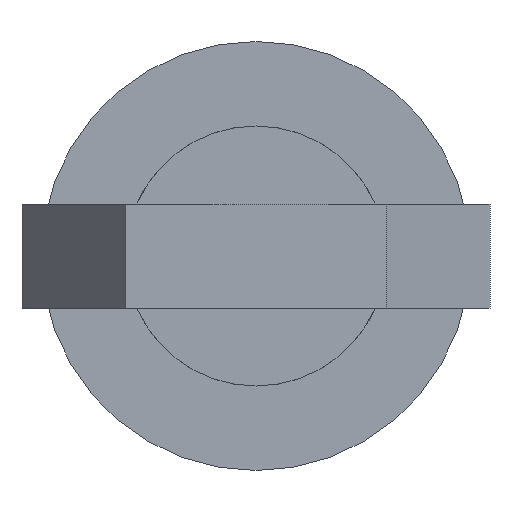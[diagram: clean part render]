
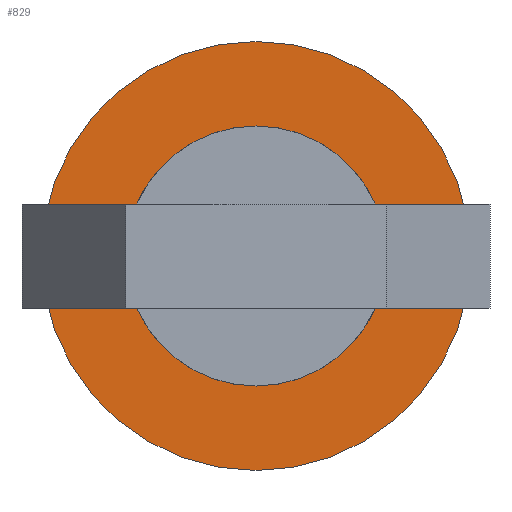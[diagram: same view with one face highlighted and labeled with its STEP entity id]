
A CAD part, front view. The second image highlights one B-rep face of the part: STEP entity #829.
In plain terms, the highlighted planar face has unit normal (0, -1, 0).
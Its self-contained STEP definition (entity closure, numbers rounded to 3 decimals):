
#18 = AXIS2_PLACEMENT_3D ( 'NONE', #866, #216, #298 ) ;
#23 = DIRECTION ( 'NONE',  ( 0., -1., 0. ) ) ;
#28 = ORIENTED_EDGE ( 'NONE', *, *, #93, .F. ) ;
#62 = CARTESIAN_POINT ( 'NONE',  ( 0., -18.8, -5. ) ) ;
#88 = DIRECTION ( 'NONE',  ( 0., 0., -1. ) ) ;
#93 = EDGE_CURVE ( 'NONE', #665, #397, #654, .T. ) ;
#96 = AXIS2_PLACEMENT_3D ( 'NONE', #544, #695, #196 ) ;
#196 = DIRECTION ( 'NONE',  ( 0., 0., -1. ) ) ;
#216 = DIRECTION ( 'NONE',  ( 0., -1., 0. ) ) ;
#239 = DIRECTION ( 'NONE',  ( 0., -1., 0. ) ) ;
#259 = FACE_OUTER_BOUND ( 'NONE', #385, .T. ) ;
#289 = AXIS2_PLACEMENT_3D ( 'NONE', #427, #296, #88 ) ;
#296 = DIRECTION ( 'NONE',  ( 0., -1., 0. ) ) ;
#298 = DIRECTION ( 'NONE',  ( 0., 0., -1. ) ) ;
#303 = VERTEX_POINT ( 'NONE', #731 ) ;
#306 = EDGE_CURVE ( 'NONE', #397, #665, #412, .T. ) ;
#311 = EDGE_LOOP ( 'NONE', ( #28, #828 ) ) ;
#366 = PLANE ( 'NONE',  #410 ) ;
#367 = CARTESIAN_POINT ( 'NONE',  ( 8.25, -18.8, 0. ) ) ;
#375 = FACE_BOUND ( 'NONE', #311, .T. ) ;
#377 = DIRECTION ( 'NONE',  ( 0., 0., -1. ) ) ;
#385 = EDGE_LOOP ( 'NONE', ( #852, #611 ) ) ;
#397 = VERTEX_POINT ( 'NONE', #827 ) ;
#399 = CIRCLE ( 'NONE', #96, 8.25 ) ;
#410 = AXIS2_PLACEMENT_3D ( 'NONE', #367, #23, #447 ) ;
#412 = CIRCLE ( 'NONE', #419, 5. ) ;
#419 = AXIS2_PLACEMENT_3D ( 'NONE', #807, #239, #377 ) ;
#427 = CARTESIAN_POINT ( 'NONE',  ( 0., -18.8, 0. ) ) ;
#447 = DIRECTION ( 'NONE',  ( 0., 0., -1. ) ) ;
#451 = CARTESIAN_POINT ( 'NONE',  ( 0., -18.8, 8.25 ) ) ;
#544 = CARTESIAN_POINT ( 'NONE',  ( 0., -18.8, 0. ) ) ;
#562 = EDGE_CURVE ( 'NONE', #883, #303, #399, .T. ) ;
#611 = ORIENTED_EDGE ( 'NONE', *, *, #562, .T. ) ;
#654 = CIRCLE ( 'NONE', #289, 5. ) ;
#659 = CIRCLE ( 'NONE', #18, 8.25 ) ;
#665 = VERTEX_POINT ( 'NONE', #62 ) ;
#695 = DIRECTION ( 'NONE',  ( 0., -1., 0. ) ) ;
#731 = CARTESIAN_POINT ( 'NONE',  ( 0., -18.8, -8.25 ) ) ;
#790 = EDGE_CURVE ( 'NONE', #303, #883, #659, .T. ) ;
#807 = CARTESIAN_POINT ( 'NONE',  ( 0., -18.8, 0. ) ) ;
#827 = CARTESIAN_POINT ( 'NONE',  ( 0., -18.8, 5. ) ) ;
#828 = ORIENTED_EDGE ( 'NONE', *, *, #306, .F. ) ;
#829 = ADVANCED_FACE ( 'NONE', ( #259, #375 ), #366, .T. ) ;
#852 = ORIENTED_EDGE ( 'NONE', *, *, #790, .T. ) ;
#866 = CARTESIAN_POINT ( 'NONE',  ( 0., -18.8, 0. ) ) ;
#883 = VERTEX_POINT ( 'NONE', #451 ) ;
